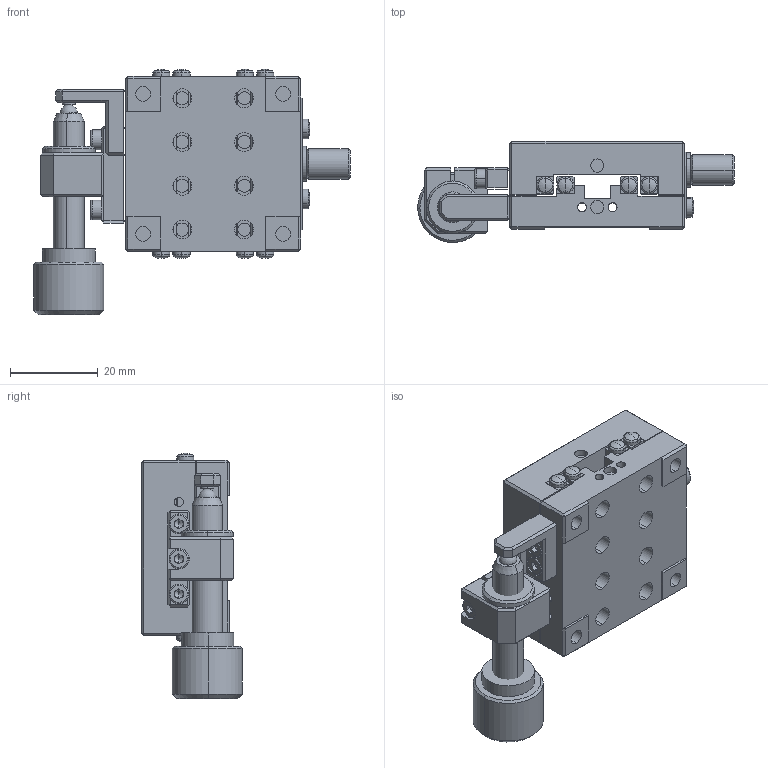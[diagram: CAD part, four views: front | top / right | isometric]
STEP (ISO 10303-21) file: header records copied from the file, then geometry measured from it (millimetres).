
FILE_DESCRIPTION (( 'STEP AP203' ), '1' );
FILE_NAME ('AK13-4020RZ.step', '2019-05-08T06:21:58', ( '' ), ( '' ), 'SwSTEP 2.0', 'SolidWorks 2017', '' );
FILE_SCHEMA (( 'CONFIG_CONTROL_DESIGN' ));
Length unit declared in the file: millimetre
Products named in the file (1): AK13-4020RZ
Bounding box: 72.3 x 23 x 56.03 mm (x, y, z)
Surface area: 17958.1 mm2 (no closed solid volume)
Topology: 0 solids, 33 shells, 654 faces, 2110 edges, 1415 vertices
Faces by surface type: plane 408, cylinder 150, cone 32, bspline 32, torus 26, sphere 6
Entity records: 23272 total; most frequent: CARTESIAN_POINT 4778, DIRECTION 3938, ORIENTED_EDGE 3413, EDGE_CURVE 2071, VERTEX_POINT 1412, LINE 1370, VECTOR 1370, AXIS2_PLACEMENT_3D 1284
